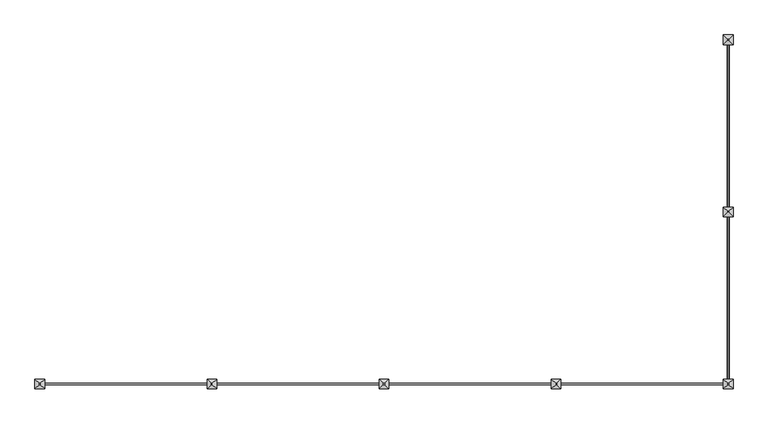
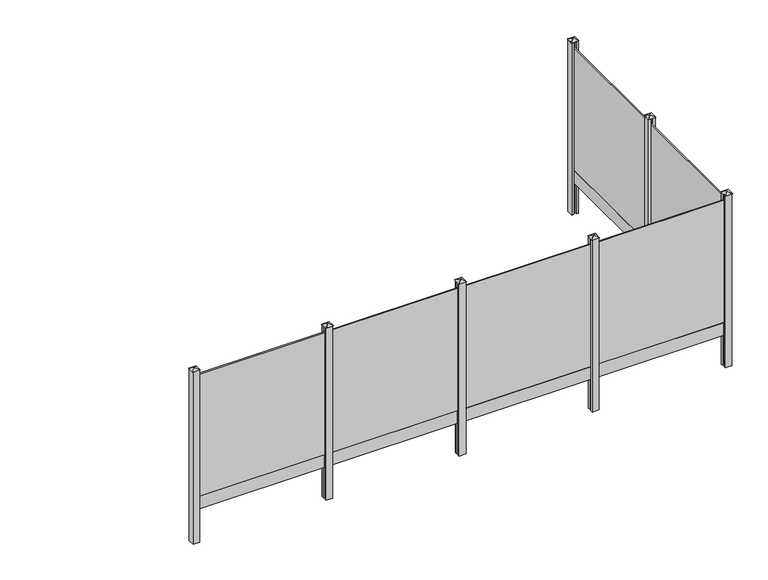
"""IFC4 building model written with IfcOpenShell, lengths in millimetres: railing geometry, Mehat - Railing - Plaque de Soubassement - Pour clôture aluminium - 196x20x3.5/1.8 cm."""

from ifc_helpers import new_model, si_unit, frame, origin, origin_with_axes, place, context, project, spatial, polyline, outline, extrude, faceted_brep, source, transform, mapped, element, save


def railing_5a82572c(model_context):
    return source(origin(), model_context, "Body", "SolidModel", [
        extrude(outline(polyline([(11896.2516516, 18632.5056064), (11879.2516516, 18632.5056064), (11879.2516516, 20592.5056064), (11896.2516516, 20592.5056064), (11896.2516516, 18632.5056064)])), frame((0.0, 0.0, 200.0), z_axis=(0.0, 0.0, 1.0), x_axis=(1.0, 0.0, 0.0)), (0.0, 0.0, 1.0), 1950.0),
        extrude(outline(polyline([(11877.7516516, 20592.5056064), (11880.7516516, 20592.5056064), (11897.7516516, 20567.5056064), (11897.7516516, 18657.5056064), (11880.7516516, 18632.5056064), (11877.7516516, 18632.5056064), (11877.7516516, 20592.5056064)])), origin_with_axes(), (0.0, 0.0, 1.0), 200.0),
        extrude(outline(polyline([(11937.7516516, 18557.5056064), (11905.2516516, 18557.5056064), (11905.2516516, 18582.5056064), (11870.2516516, 18582.5056064), (11870.2516516, 18557.5056064), (11837.7516516, 18557.5056064), (11837.7516516, 18657.5056064), (11870.2516516, 18657.5056064), (11870.2516516, 18632.5056064), (11905.2516516, 18632.5056064), (11905.2516516, 18657.5056064), (11937.7516516, 18657.5056064), (11937.7516516, 18557.5056064)])), frame((0.0, 0.0, -500.0), z_axis=(0.0, 0.0, 1.0), x_axis=(1.0, 0.0, 0.0)), (0.0, 0.0, 1.0), 2750.0),
        faceted_brep([(11881.3471055, 18613.8556064, 2275.4), (11881.3471055, 18601.1556064, 2275.4), (11894.0471055, 18601.1556064, 2275.4), (11894.0471055, 18613.8556064, 2275.4), (11831.4016516, 18663.8556064, 2250.0), (11944.1016516, 18663.8556064, 2250.0), (11944.1016516, 18551.1556064, 2250.0), (11831.4016516, 18551.1556064, 2250.0)], [[[0, 1, 2, 3]], [[4, 5, 6, 7]], [[4, 0, 3, 5]], [[5, 3, 2, 6]], [[6, 2, 1, 7]], [[7, 1, 0, 4]]]),
        extrude(outline(polyline([(11896.2516516, 16622.5056064), (11879.2516516, 16622.5056064), (11879.2516516, 18582.5056064), (11896.2516516, 18582.5056064), (11896.2516516, 16622.5056064)])), frame((0.0, 0.0, 200.0), z_axis=(0.0, 0.0, 1.0), x_axis=(1.0, 0.0, 0.0)), (0.0, 0.0, 1.0), 1950.0),
        extrude(outline(polyline([(11877.7516516, 18582.5056064), (11880.7516516, 18582.5056064), (11897.7516516, 18557.5056064), (11897.7516516, 16647.5056064), (11880.7516516, 16622.5056064), (11877.7516516, 16622.5056064), (11877.7516516, 18582.5056064)])), origin_with_axes(), (0.0, 0.0, 1.0), 200.0),
        extrude(outline(polyline([(9902.7516516, 16589.0056064), (9902.7516516, 16606.0056064), (11862.7516516, 16606.0056064), (11862.7516516, 16589.0056064), (9902.7516516, 16589.0056064)])), frame((0.0, 0.0, 200.0), z_axis=(0.0, 0.0, 1.0), x_axis=(1.0, 0.0, 0.0)), (0.0, 0.0, 1.0), 1950.0),
        extrude(outline(polyline([(11862.7516516, 16607.5056064), (11862.7516516, 16604.5056064), (11837.7516516, 16587.5056064), (9927.7516516, 16587.5056064), (9902.7516516, 16604.5056064), (9902.7516516, 16607.5056064), (11862.7516516, 16607.5056064)])), origin_with_axes(), (0.0, 0.0, 1.0), 200.0),
        extrude(outline(polyline([(9827.7516516, 16547.5056064), (9827.7516516, 16580.0056064), (9852.7516516, 16580.0056064), (9852.7516516, 16615.0056064), (9827.7516516, 16615.0056064), (9827.7516516, 16647.5056064), (9927.7516516, 16647.5056064), (9927.7516516, 16615.0056064), (9902.7516516, 16615.0056064), (9902.7516516, 16580.0056064), (9927.7516516, 16580.0056064), (9927.7516516, 16547.5056064), (9827.7516516, 16547.5056064)])), frame((0.0, 0.0, -500.0), z_axis=(0.0, 0.0, 1.0), x_axis=(1.0, 0.0, 0.0)), (0.0, 0.0, 1.0), 2750.0),
        faceted_brep([(9884.1016516, 16603.9101525, 2275.4), (9871.4016516, 16603.9101525, 2275.4), (9871.4016516, 16591.2101525, 2275.4), (9884.1016516, 16591.2101525, 2275.4), (9934.1016516, 16653.8556064, 2250.0), (9934.1016516, 16541.1556064, 2250.0), (9821.4016516, 16541.1556064, 2250.0), (9821.4016516, 16653.8556064, 2250.0)], [[[0, 1, 2, 3]], [[4, 5, 6, 7]], [[4, 0, 3, 5]], [[5, 3, 2, 6]], [[6, 2, 1, 7]], [[7, 1, 0, 4]]]),
        extrude(outline(polyline([(7892.7516516, 16589.0056064), (7892.7516516, 16606.0056064), (9852.7516516, 16606.0056064), (9852.7516516, 16589.0056064), (7892.7516516, 16589.0056064)])), frame((0.0, 0.0, 200.0), z_axis=(0.0, 0.0, 1.0), x_axis=(1.0, 0.0, 0.0)), (0.0, 0.0, 1.0), 1950.0),
        extrude(outline(polyline([(9852.7516516, 16607.5056064), (9852.7516516, 16604.5056064), (9827.7516516, 16587.5056064), (7917.7516516, 16587.5056064), (7892.7516516, 16604.5056064), (7892.7516516, 16607.5056064), (9852.7516516, 16607.5056064)])), origin_with_axes(), (0.0, 0.0, 1.0), 200.0),
        extrude(outline(polyline([(7817.7516516, 16547.5056064), (7817.7516516, 16580.0056064), (7842.7516516, 16580.0056064), (7842.7516516, 16615.0056064), (7817.7516516, 16615.0056064), (7817.7516516, 16647.5056064), (7917.7516516, 16647.5056064), (7917.7516516, 16615.0056064), (7892.7516516, 16615.0056064), (7892.7516516, 16580.0056064), (7917.7516516, 16580.0056064), (7917.7516516, 16547.5056064), (7817.7516516, 16547.5056064)])), frame((0.0, 0.0, -500.0), z_axis=(0.0, 0.0, 1.0), x_axis=(1.0, 0.0, 0.0)), (0.0, 0.0, 1.0), 2750.0),
        faceted_brep([(7874.1016516, 16603.9101525, 2275.4), (7861.4016516, 16603.9101525, 2275.4), (7861.4016516, 16591.2101525, 2275.4), (7874.1016516, 16591.2101525, 2275.4), (7924.1016516, 16653.8556064, 2250.0), (7924.1016516, 16541.1556064, 2250.0), (7811.4016516, 16541.1556064, 2250.0), (7811.4016516, 16653.8556064, 2250.0)], [[[0, 1, 2, 3]], [[4, 5, 6, 7]], [[4, 0, 3, 5]], [[5, 3, 2, 6]], [[6, 2, 1, 7]], [[7, 1, 0, 4]]]),
        extrude(outline(polyline([(5882.7516516, 16589.0056064), (5882.7516516, 16606.0056064), (7842.7516516, 16606.0056064), (7842.7516516, 16589.0056064), (5882.7516516, 16589.0056064)])), frame((0.0, 0.0, 200.0), z_axis=(0.0, 0.0, 1.0), x_axis=(1.0, 0.0, 0.0)), (0.0, 0.0, 1.0), 1950.0),
        extrude(outline(polyline([(7842.7516516, 16607.5056064), (7842.7516516, 16604.5056064), (7817.7516516, 16587.5056064), (5907.7516516, 16587.5056064), (5882.7516516, 16604.5056064), (5882.7516516, 16607.5056064), (7842.7516516, 16607.5056064)])), origin_with_axes(), (0.0, 0.0, 1.0), 200.0),
        extrude(outline(polyline([(5807.7516516, 16547.5056064), (5807.7516516, 16580.0056064), (5832.7516516, 16580.0056064), (5832.7516516, 16615.0056064), (5807.7516516, 16615.0056064), (5807.7516516, 16647.5056064), (5907.7516516, 16647.5056064), (5907.7516516, 16615.0056064), (5882.7516516, 16615.0056064), (5882.7516516, 16580.0056064), (5907.7516516, 16580.0056064), (5907.7516516, 16547.5056064), (5807.7516516, 16547.5056064)])), frame((0.0, 0.0, -500.0), z_axis=(0.0, 0.0, 1.0), x_axis=(1.0, 0.0, 0.0)), (0.0, 0.0, 1.0), 2750.0),
        faceted_brep([(5864.1016516, 16603.9101525, 2275.4), (5851.4016516, 16603.9101525, 2275.4), (5851.4016516, 16591.2101525, 2275.4), (5864.1016516, 16591.2101525, 2275.4), (5914.1016516, 16653.8556064, 2250.0), (5914.1016516, 16541.1556064, 2250.0), (5801.4016516, 16541.1556064, 2250.0), (5801.4016516, 16653.8556064, 2250.0)], [[[0, 1, 2, 3]], [[4, 5, 6, 7]], [[4, 0, 3, 5]], [[5, 3, 2, 6]], [[6, 2, 1, 7]], [[7, 1, 0, 4]]]),
        extrude(outline(polyline([(3872.7516516, 16589.0056064), (3872.7516516, 16606.0056064), (5832.7516516, 16606.0056064), (5832.7516516, 16589.0056064), (3872.7516516, 16589.0056064)])), frame((0.0, 0.0, 200.0), z_axis=(0.0, 0.0, 1.0), x_axis=(1.0, 0.0, 0.0)), (0.0, 0.0, 1.0), 1950.0),
        extrude(outline(polyline([(5832.7516516, 16607.5056064), (5832.7516516, 16604.5056064), (5807.7516516, 16587.5056064), (3897.7516516, 16587.5056064), (3872.7516516, 16604.5056064), (3872.7516516, 16607.5056064), (5832.7516516, 16607.5056064)])), origin_with_axes(), (0.0, 0.0, 1.0), 200.0),
        extrude(outline(polyline([(11837.7516516, 16547.5056064), (11837.7516516, 16580.0056064), (11862.7516516, 16580.0056064), (11862.7516516, 16615.0056064), (11837.7516516, 16615.0056064), (11837.7516516, 16647.5056064), (11870.2516516, 16647.5056064), (11870.2516516, 16622.5056064), (11905.2516516, 16622.5056064), (11905.2516516, 16647.5056064), (11937.7516516, 16647.5056064), (11937.7516516, 16547.5056064), (11837.7516516, 16547.5056064)])), frame((0.0, 0.0, -500.0), z_axis=(0.0, 0.0, 1.0), x_axis=(1.0, 0.0, 0.0)), (0.0, 0.0, 1.0), 2750.0),
        faceted_brep([(11894.1016516, 16603.9101525, 2275.4), (11881.4016516, 16603.9101525, 2275.4), (11881.4016516, 16591.2101525, 2275.4), (11894.1016516, 16591.2101525, 2275.4), (11944.1016516, 16653.8556064, 2250.0), (11944.1016516, 16541.1556064, 2250.0), (11831.4016516, 16541.1556064, 2250.0), (11831.4016516, 16653.8556064, 2250.0)], [[[0, 1, 2, 3]], [[4, 5, 6, 7]], [[4, 0, 3, 5]], [[5, 3, 2, 6]], [[6, 2, 1, 7]], [[7, 1, 0, 4]]]),
        extrude(outline(polyline([(11937.7516516, 20567.5056064), (11905.2516516, 20567.5056064), (11905.2516516, 20592.5056064), (11870.2516516, 20592.5056064), (11870.2516516, 20567.5056064), (11837.7516516, 20567.5056064), (11837.7516516, 20667.5056064), (11937.7516516, 20667.5056064), (11937.7516516, 20567.5056064)])), frame((0.0, 0.0, -500.0), z_axis=(0.0, 0.0, 1.0), x_axis=(1.0, 0.0, 0.0)), (0.0, 0.0, 1.0), 2750.0),
        faceted_brep([(11881.3471055, 20623.8556064, 2275.4), (11881.3471055, 20611.1556064, 2275.4), (11894.0471055, 20611.1556064, 2275.4), (11894.0471055, 20623.8556064, 2275.4), (11831.4016516, 20673.8556064, 2250.0), (11944.1016516, 20673.8556064, 2250.0), (11944.1016516, 20561.1556064, 2250.0), (11831.4016516, 20561.1556064, 2250.0)], [[[0, 1, 2, 3]], [[4, 5, 6, 7]], [[4, 0, 3, 5]], [[5, 3, 2, 6]], [[6, 2, 1, 7]], [[7, 1, 0, 4]]]),
        extrude(outline(polyline([(3797.7516516, 16547.5056064), (3797.7516516, 16647.5056064), (3897.7516516, 16647.5056064), (3897.7516516, 16615.0056064), (3872.7516516, 16615.0056064), (3872.7516516, 16580.0056064), (3897.7516516, 16580.0056064), (3897.7516516, 16547.5056064), (3797.7516516, 16547.5056064)])), frame((0.0, 0.0, -500.0), z_axis=(0.0, 0.0, 1.0), x_axis=(1.0, 0.0, 0.0)), (0.0, 0.0, 1.0), 2750.0),
        faceted_brep([(3854.1016516, 16603.9101525, 2275.4), (3841.4016516, 16603.9101525, 2275.4), (3841.4016516, 16591.2101525, 2275.4), (3854.1016516, 16591.2101525, 2275.4), (3904.1016516, 16653.8556064, 2250.0), (3904.1016516, 16541.1556064, 2250.0), (3791.4016516, 16541.1556064, 2250.0), (3791.4016516, 16653.8556064, 2250.0)], [[[0, 1, 2, 3]], [[4, 5, 6, 7]], [[4, 0, 3, 5]], [[5, 3, 2, 6]], [[6, 2, 1, 7]], [[7, 1, 0, 4]]]),
    ])


if __name__ == "__main__":
    model = new_model("IFC4")
    model_context = context("Model", 3, world=origin())
    ifc_project = project(units=[si_unit("LENGTHUNIT", "METRE", prefix="MILLI")], contexts=[model_context])
    site = spatial("IfcSite", under=ifc_project)
    building = spatial("IfcBuilding", under=site)
    placement = place(None, origin())
    railing_shape = railing_5a82572c(model_context)
    element("IfcRailing", 1, ObjectType="Mehat - Railing - Plaque de Soubassement - Pour clôture aluminium - 196x20x3.5/1.8 cm", at=placement, inside=building, context=model_context, shape_type="MappedRepresentation", body=[
        mapped(railing_shape, transform((0.0, 0.0, 0.0), x_axis=(1.0, 0.0, 0.0), y_axis=(0.0, 1.0, 0.0), z_axis=(0.0, 0.0, 1.0))),
    ])
    save(model, "model.ifc")
